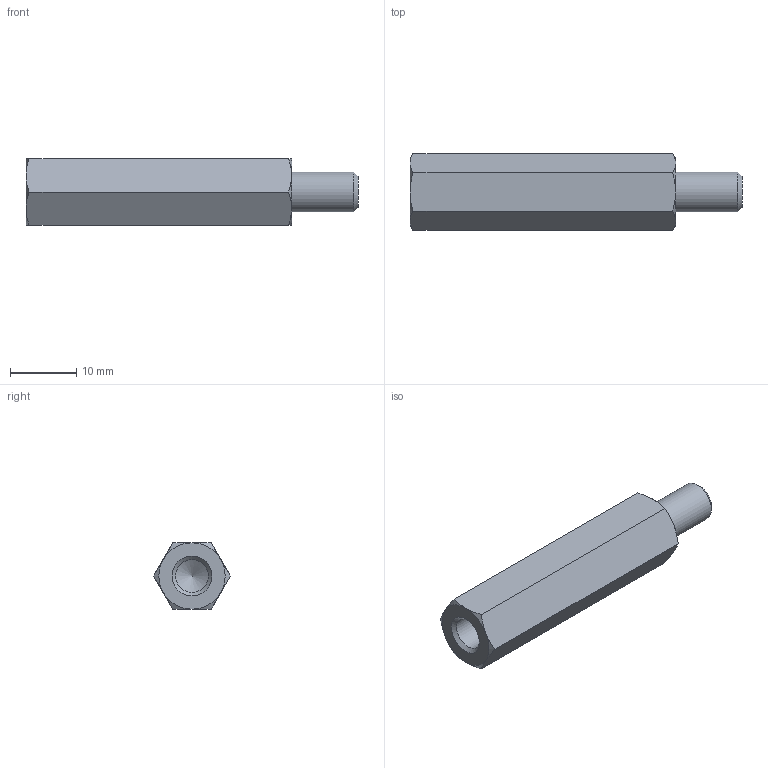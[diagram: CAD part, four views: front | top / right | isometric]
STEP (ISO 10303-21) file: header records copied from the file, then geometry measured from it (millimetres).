
FILE_DESCRIPTION( ( 'STEP AP203' ), '1' );
FILE_NAME( 'C:/Temp/Ganter_Step_05_03_2020/data/3_2/gn6220/gn6220_ni/Stainless Steel-Spacer GN 6220-NI-M6-40-B.stp', '2020-03-13T05:43:16', ( 'License CC BY-ND 4.0' ), ( 'CADENAS' ), ' ', 'PARTsolutions', ' ' );
FILE_SCHEMA( ( 'CONFIG_CONTROL_DESIGN' ) );
Length unit declared in the file: millimetre
Products named in the file (1): _Stainless Steel-Spacer GN 6220-NI-M6-40-B
Bounding box: 50 x 11.55 x 10 mm (x, y, z)
Volume: 3404.9 mm3; surface area: 1994.8 mm2
Topology: 1 solids, 1 shells, 26 faces, 55 edges, 32 vertices
Faces by surface type: cone 15, plane 9, cylinder 2
Full cylindrical faces by diameter (mm): 4.917 x1, 6 x1
Entity records: 762 total; most frequent: CARTESIAN_POINT 226, DIRECTION 96, ORIENTED_EDGE 96, EDGE_CURVE 48, AXIS2_PLACEMENT_3D 45, EDGE_LOOP 32, VERTEX_POINT 31, FACE_OUTER_BOUND 28
